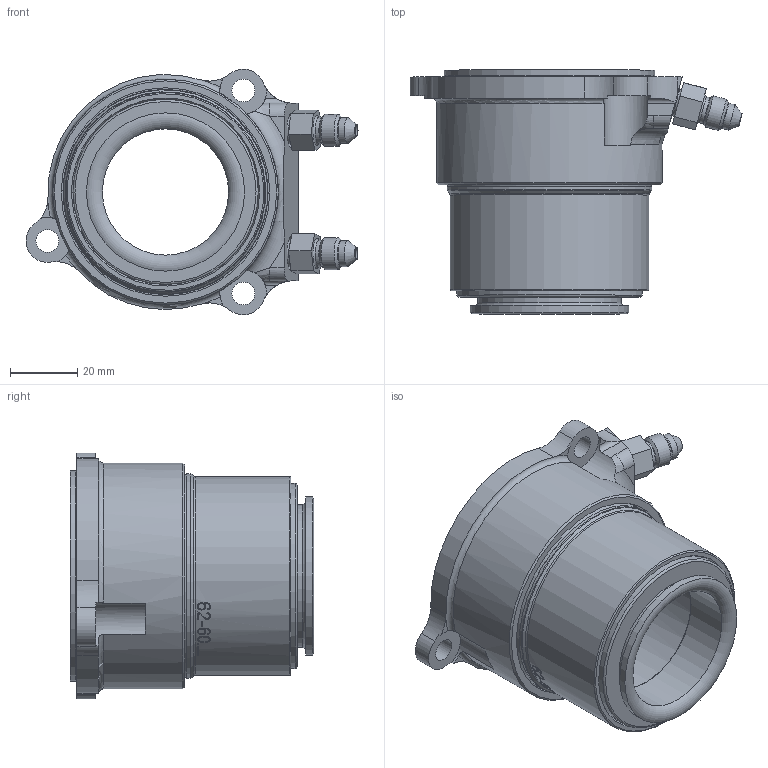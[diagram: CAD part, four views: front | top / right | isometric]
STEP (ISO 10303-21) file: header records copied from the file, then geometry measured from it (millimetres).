
FILE_DESCRIPTION(/* description */ ('Unknown'),/* implementation_level */ '2;1');
FILE_NAME(/* name */ 'TILTON 60-1290',/* time_stamp */ '2018-01-04T09:33:49-08:00',/* author */ ('Unknown'),/* organization */ ('Unknown'),/* preprocessor_version */ 'ST-DEVELOPER v16.7',/* originating_system */ 'DEX',/* authorisation */ $);
FILE_SCHEMA (('AUTOMOTIVE_DESIGN {1 0 10303 214 3 1 1}'));
Length unit declared in the file: millimetre
Products named in the file (1): TILTON 60-1290
Bounding box: 98.64 x 72.45 x 72.99 mm (x, y, z)
Volume: 126554.4 mm3; surface area: 40325 mm2
Topology: 1 solids, 4 shells, 188 faces, 466 edges, 312 vertices
Faces by surface type: cylinder 68, plane 58, torus 31, cone 29, bspline 2
Full cylindrical faces by diameter (mm): 3.175 x4, 6.756 x3, 7.734 x4, 7.925 x4, 8.379 x4, 9.525 x2, 37.5 x1, 38.1 x1, 42.5 x1, 47 x1, 47.714 x1, 55 x2, 57.061 x1, 57.912 x1, 59.182 x1, 60.96 x1, 61.925 x1, 62.512 x1, 64.77 x1, 64.922 x1, 67.056 x1
Entity records: 6817 total; most frequent: CARTESIAN_POINT 1567, DIRECTION 824, ORIENTED_EDGE 664, AXIS2_PLACEMENT_3D 372, EDGE_CURVE 332, FACE_BOUND 324, EDGE_LOOP 322, VERTEX_POINT 274
